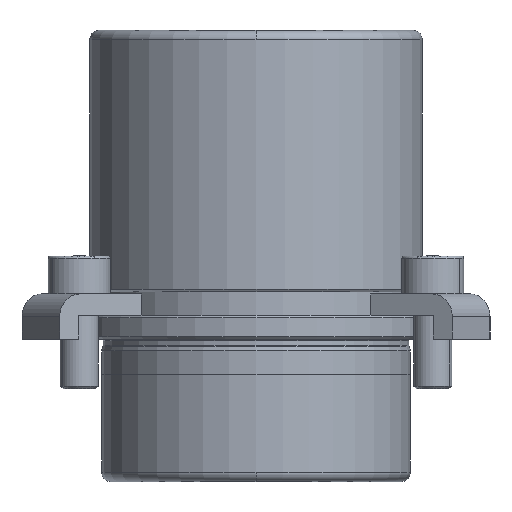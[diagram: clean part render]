
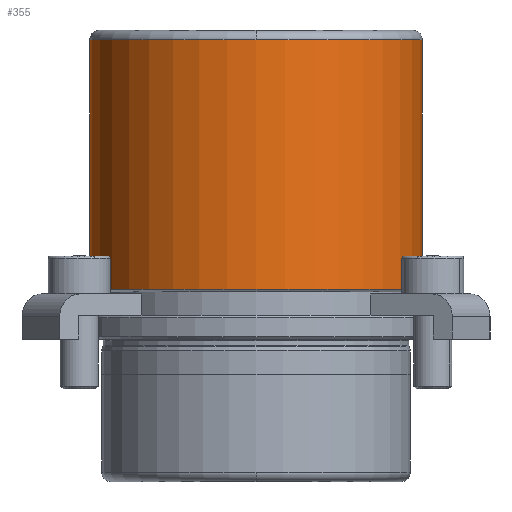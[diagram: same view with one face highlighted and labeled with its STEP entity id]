
A CAD part, front view. The second image highlights one B-rep face of the part: STEP entity #355.
In plain terms, the highlighted cylindrical face has radius 35 mm (diameter 70 mm), a partial arc.
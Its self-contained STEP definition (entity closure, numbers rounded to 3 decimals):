
#269=CARTESIAN_POINT('',(0.0,-35.,63.0));
#270=VERTEX_POINT('',#269);
#296=CARTESIAN_POINT('',(-35.0,0.,63.0));
#297=VERTEX_POINT('',#296);
#305=CARTESIAN_POINT('',(0.0,0.,63.0));
#306=DIRECTION('',(0.0,0.0,1.0));
#307=DIRECTION('',(1.0,0.0,0.0));
#308=AXIS2_PLACEMENT_3D('',#305,#306,#307);
#309=CIRCLE('',#308,35.0);
#310=EDGE_CURVE('',#297,#270,#309,.T.);
#315=CARTESIAN_POINT('',(0.0,0.,36.75));
#316=DIRECTION('',(0.0,0.,1.0));
#317=DIRECTION('',(1.0,0.0,0.0));
#318=AXIS2_PLACEMENT_3D('',#315,#316,#317);
#319=CYLINDRICAL_SURFACE('',#318,35.0);
#320=CARTESIAN_POINT('',(35.0,0.,63.0));
#321=VERTEX_POINT('',#320);
#322=CARTESIAN_POINT('',(35.0,0.,10.5));
#323=VERTEX_POINT('',#322);
#324=CARTESIAN_POINT('',(35.0,0.,63.0));
#325=DIRECTION('',(0.0,0.0,-1.0));
#326=VECTOR('',#325,52.5);
#327=LINE('',#324,#326);
#328=EDGE_CURVE('',#321,#323,#327,.T.);
#329=ORIENTED_EDGE('',*,*,#328,.F.);
#330=CARTESIAN_POINT('',(0.0,0.,63.0));
#331=DIRECTION('',(0.0,0.0,1.0));
#332=DIRECTION('',(1.0,0.0,0.0));
#333=AXIS2_PLACEMENT_3D('',#330,#331,#332);
#334=CIRCLE('',#333,35.0);
#335=EDGE_CURVE('',#270,#321,#334,.T.);
#336=ORIENTED_EDGE('',*,*,#335,.F.);
#337=ORIENTED_EDGE('',*,*,#310,.F.);
#338=CARTESIAN_POINT('',(-35.0,0.,10.5));
#339=VERTEX_POINT('',#338);
#340=CARTESIAN_POINT('',(-35.0,0.,63.0));
#341=DIRECTION('',(0.0,0.0,-1.0));
#342=VECTOR('',#341,52.5);
#343=LINE('',#340,#342);
#344=EDGE_CURVE('',#297,#339,#343,.T.);
#345=ORIENTED_EDGE('',*,*,#344,.T.);
#346=CARTESIAN_POINT('',(0.0,0.,10.5));
#347=DIRECTION('',(0.0,0.0,1.0));
#348=DIRECTION('',(1.0,0.0,0.0));
#349=AXIS2_PLACEMENT_3D('',#346,#347,#348);
#350=CIRCLE('',#349,35.0);
#351=EDGE_CURVE('',#339,#323,#350,.T.);
#352=ORIENTED_EDGE('',*,*,#351,.T.);
#353=EDGE_LOOP('',(#329,#336,#337,#345,#352));
#354=FACE_OUTER_BOUND('',#353,.T.);
#355=ADVANCED_FACE('',(#354),#319,.T.);
